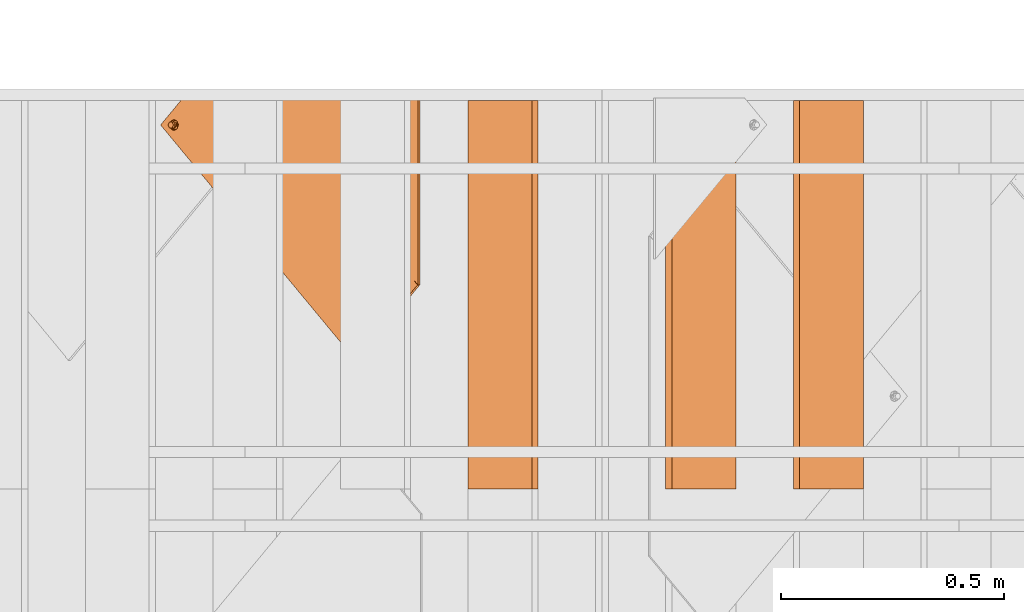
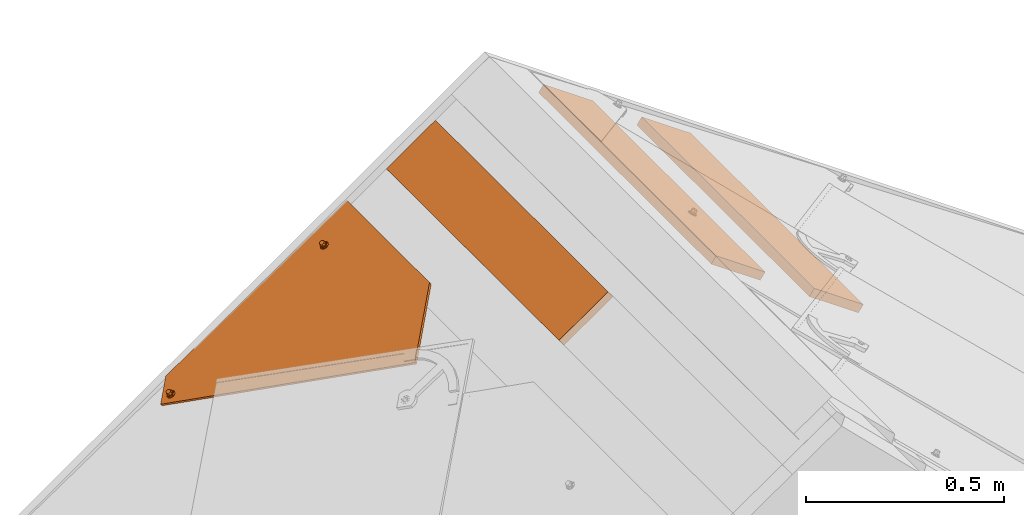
# One storey, part 122 of 151: 4 proxies, 1 element without a shape of its own.
"""IFC2X3 building model written with IfcOpenShell, lengths in millimetres."""

from ifc_helpers import new_model, entity, si_unit, converted_unit, derived_unit, direction, frame, frame_2d, origin, place, context, subcontext, project, spatial, rectangle, extrude, faceted_brep, source, transform, mapped, material, material_list, type_object, type_shapes, element, aggregate, save


model = new_model("IFC2X3")

# Units and contexts
model_context = context("Model", 3, precision=0.01, world=origin(), true_north=direction((6.12303176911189e-17, 1.0)))
body_context = subcontext(model_context, "Body", "Model", "MODEL_VIEW")
ifc_project = project(units=[si_unit("LENGTHUNIT", "METRE", prefix="MILLI"), si_unit("AREAUNIT", "SQUARE_METRE"), si_unit("VOLUMEUNIT", "CUBIC_METRE"), converted_unit("PLANEANGLEUNIT", "DEGREE", entity("IfcRatioMeasure", 0.0174532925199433), si_unit("PLANEANGLEUNIT", "RADIAN"), dimensions=[0, 0, 0, 0, 0, 0, 0]), si_unit("MASSUNIT", "GRAM", prefix="KILO"), derived_unit("MASSDENSITYUNIT", [(si_unit("MASSUNIT", "GRAM", prefix="KILO"), 1), (si_unit("LENGTHUNIT", "METRE"), -3)]), si_unit("TIMEUNIT", "SECOND"), si_unit("FREQUENCYUNIT", "HERTZ"), si_unit("THERMODYNAMICTEMPERATUREUNIT", "DEGREE_CELSIUS"), derived_unit("THERMALTRANSMITTANCEUNIT", [(si_unit("MASSUNIT", "GRAM", prefix="KILO"), 1), (si_unit("THERMODYNAMICTEMPERATUREUNIT", "KELVIN"), -1), (si_unit("TIMEUNIT", "SECOND"), -3)]), derived_unit("VOLUMETRICFLOWRATEUNIT", [(si_unit("LENGTHUNIT", "METRE"), 3), (si_unit("TIMEUNIT", "SECOND"), -1)]), si_unit("ELECTRICCURRENTUNIT", "AMPERE"), si_unit("ELECTRICVOLTAGEUNIT", "VOLT"), si_unit("POWERUNIT", "WATT"), si_unit("FORCEUNIT", "NEWTON", prefix="KILO"), si_unit("ILLUMINANCEUNIT", "LUX"), si_unit("LUMINOUSFLUXUNIT", "LUMEN"), si_unit("LUMINOUSINTENSITYUNIT", "CANDELA"), derived_unit("USERDEFINED", [(si_unit("MASSUNIT", "GRAM", prefix="KILO"), -1), (si_unit("LENGTHUNIT", "METRE"), -2), (si_unit("TIMEUNIT", "SECOND"), 3), (si_unit("LUMINOUSFLUXUNIT", "LUMEN"), 1)]), derived_unit("LINEARVELOCITYUNIT", [(si_unit("LENGTHUNIT", "METRE"), 1), (si_unit("TIMEUNIT", "SECOND"), -1)]), si_unit("PRESSUREUNIT", "PASCAL"), derived_unit("USERDEFINED", [(si_unit("LENGTHUNIT", "METRE"), -2), (si_unit("MASSUNIT", "GRAM", prefix="KILO"), 1), (si_unit("TIMEUNIT", "SECOND"), -2)])], contexts=[model_context])

# Site, building, storey
site_placement = place(None, origin())
site = spatial("IfcSite", under=ifc_project, at=site_placement, Name="Default", CompositionType="ELEMENT")
building_placement = place(site_placement, origin())
building = spatial("IfcBuilding", under=site, at=building_placement, CompositionType="ELEMENT")
storey_placement = place(building_placement, origin())
storey = spatial("IfcBuildingStorey", under=building, at=storey_placement, Name="Level 1", CompositionType="ELEMENT", Elevation=0.0)

# Assembly, proxies
assembly_placement = place(storey_placement, origin())
assembly = element("IfcElementAssembly", 1, at=assembly_placement, inside=storey, Name="Structural Framing Assembly:Roof Construction Assembly", ObjectType="Structural Framing Assembly:Roof Construction Assembly", AssemblyPlace="NOTDEFINED", PredefinedType="USERDEFINED")
ifc_material_1 = material(Name="Wood - Generic - Wood For Showcase")
building_element_proxy_type_1 = type_object("IfcBuildingElementProxyType", Name="Structural Framing 15", PredefinedType="NOTDEFINED", material=ifc_material_1)
shared_shape_1 = source(origin(), body_context, "Body", "SweptSolid", [
    extrude(rectangle(XDim=24.9999999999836, YDim=174.344679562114, at=frame_2d((2.98427949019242e-13, -4.2632564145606e-14), x_axis=(1.0, 0.0))), frame((1285.3560130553, 3055.55080214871, 2760.23940055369), z_axis=(0.0, 1.0, 0.0), x_axis=(0.573576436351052, 0.0, 0.819152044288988)), (0.0, 0.0, 1.0), 870.000000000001),
])
type_shapes(building_element_proxy_type_1, [shared_shape_1])
proxy_1_placement = place(assembly_placement, frame((200.302671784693, 0.0, -100.0)))
proxy_1 = element("IfcBuildingElementProxy", 2, at=proxy_1_placement, type_object=building_element_proxy_type_1, material=ifc_material_1, Name="Structural Framing 164:Structural Framing 15", ObjectType="Structural Framing 164:Structural Framing 15", context=body_context, shape_type="MappedRepresentation", body=[
    mapped(shared_shape_1, transform((0.0, 0.0, 0.0), scale=1.0)),
])
building_element_proxy_type_2 = type_object("IfcBuildingElementProxyType", Name="Structural Framing 15", PredefinedType="NOTDEFINED", material=ifc_material_1)
shared_shape_2 = source(origin(), body_context, "Body", "SweptSolid", [
    extrude(rectangle(XDim=24.9999999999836, YDim=174.344679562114, at=frame_2d((2.98427949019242e-13, -4.2632564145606e-14), x_axis=(1.0, 0.0))), frame((1285.3560130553, 3055.55080214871, 2760.23940055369), z_axis=(0.0, 1.0, 0.0), x_axis=(0.573576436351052, 0.0, 0.819152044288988)), (0.0, 0.0, 1.0), 870.000000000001),
])
type_shapes(building_element_proxy_type_2, [shared_shape_2])
proxy_2_placement = place(assembly_placement, frame((485.932273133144, 0.0, -300.0)))
proxy_2 = element("IfcBuildingElementProxy", 3, at=proxy_2_placement, type_object=building_element_proxy_type_2, material=ifc_material_1, Name="Structural Framing 174:Structural Framing 15", ObjectType="Structural Framing 174:Structural Framing 15", context=body_context, shape_type="MappedRepresentation", body=[
    mapped(shared_shape_2, transform((0.0, 0.0, 0.0), scale=1.0)),
])
building_element_proxy_type_3 = type_object("IfcBuildingElementProxyType", Name="Structural Framing 15", PredefinedType="NOTDEFINED", material=ifc_material_1)
shared_shape_3 = source(origin(), body_context, "Body", "SweptSolid", [
    extrude(rectangle(XDim=24.9999999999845, YDim=174.344679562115, at=frame_2d((-1.77635683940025e-13, -4.54747350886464e-13), x_axis=(0.0, 1.0))), frame((1128.20180147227, 3055.55080214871, 2760.23940055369), z_axis=(0.0, 1.0, 0.0), x_axis=(-0.819152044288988, 0.0, -0.573576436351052)), (0.0, 0.0, 1.0), 870.000000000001),
])
type_shapes(building_element_proxy_type_3, [shared_shape_3])
proxy_3_placement = place(assembly_placement, frame((-85.3269295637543, 0.0, -100.0)))
proxy_3 = element("IfcBuildingElementProxy", 4, at=proxy_3_placement, type_object=building_element_proxy_type_3, material=ifc_material_1, Name="Structural Framing 24:Structural Framing 15", ObjectType="Structural Framing 24:Structural Framing 15", context=body_context, shape_type="MappedRepresentation", body=[
    mapped(shared_shape_3, transform((0.0, 0.0, 0.0), scale=1.0)),
])
aggregate(assembly, [proxy_1, proxy_2, proxy_3])

# Proxy
ifc_material_2 = material(Name="Rubber - Sunstyle - Black")
ifc_material_3 = material(Name="Glass - Sunstyle - Tainted Black")
ifc_material_list_1 = material_list([ifc_material_2, ifc_material_3])
ifc_material_list_2 = material_list([ifc_material_2, ifc_material_3])
building_element_proxy_type_4 = type_object("IfcBuildingElementProxyType", Name="Corner Top Big Left - Black", PredefinedType="NOTDEFINED", material=ifc_material_list_2)
shared_shape_4 = source(origin(), body_context, "Body", "Brep", [
    faceted_brep([(0.0, -33.9825851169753, -4.47296585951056), (-5.7742028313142, -37.3158552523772, -4.41714187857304), (-5.77420283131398, -36.9475461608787, 17.5747274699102), (0.0, -33.6142760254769, 17.5189034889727), (-5.77420283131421, -43.9823955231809, -4.30549391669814), (-5.77420283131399, -43.6140864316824, 17.6863754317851), (0.0, -47.3156656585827, -4.24966993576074), (0.0, -46.9473565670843, 17.7421994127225), (5.77420283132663, -43.9823955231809, -4.30549391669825), (5.77420283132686, -43.6140864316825, 17.686375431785), (5.77420283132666, -37.3158552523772, -4.41714187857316), (5.77420283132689, -36.9475461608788, 17.5747274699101), (-8.60370416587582, -48.8833141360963, 17.774621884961), (0.0, -52.4465854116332, 17.8342978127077), (-12.1674751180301, -40.2808162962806, 17.6305514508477), (-8.60370416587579, -31.6783184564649, 17.4864810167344), (0.0, -28.115047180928, 17.4268050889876), (8.60370416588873, -31.6783184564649, 17.4864810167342), (12.167475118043, -40.2808162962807, 17.6305514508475), (8.60370416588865, -48.8833141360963, 17.7746218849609), (-11.3242446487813, -37.9857391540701, 19.9433933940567), (-9.75647455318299, -40.2098014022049, 21.8708760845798), (0.0, -32.8967261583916, 22.5035764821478), (0.0, -31.6562285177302, 21.9232298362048), (0.0, -29.4986776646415, 20.9138547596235), (0.0, -51.8905414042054, 19.1093557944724), (0.0, -50.9469648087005, 21.273060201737), (0.0, -47.4975891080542, 22.748104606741), (0.0, -28.6280832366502, 18.719767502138), (-6.32324569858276, -43.8473733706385, 22.6869725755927), (-6.32324569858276, -36.5469418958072, 22.5647085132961), (11.3242446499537, -42.4971593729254, 20.0189484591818), (9.84888015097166, -41.2842078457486, 21.7920079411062), (6.32324569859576, -36.5469418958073, 22.564708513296), (6.32324569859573, -43.8473733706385, 22.6869725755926), (-6.32324569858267, -43.7133449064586, 30.6898607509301), (0.0, -47.3635606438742, 30.7509927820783), (0.0, -40.063129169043, 30.6287287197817), (-6.32324569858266, -36.4129134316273, 30.5675966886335), (6.32324569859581, -43.7133449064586, 30.68986075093), (6.32324569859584, -36.4129134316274, 30.5675966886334), (0.0, -32.7626976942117, 30.5064646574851), (0.0, -40.649125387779, -4.36131789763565)], [[[0, 1, 2, 3]], [[1, 4, 5, 2]], [[4, 6, 7, 5]], [[6, 8, 9, 7]], [[8, 10, 11, 9]], [[10, 0, 3, 11]], [[12, 7, 13]], [[7, 12, 5]], [[14, 5, 12]], [[5, 14, 2]], [[15, 2, 14]], [[3, 2, 15]], [[15, 16, 3]], [[16, 17, 3]], [[11, 3, 17]], [[11, 17, 18]], [[9, 11, 18]], [[18, 19, 9]], [[7, 9, 19]], [[19, 13, 7]], [[20, 14, 12]], [[21, 22, 23, 24]], [[24, 20, 21]], [[25, 20, 12]], [[26, 27, 21]], [[15, 14, 20]], [[12, 13, 25]], [[20, 28, 15]], [[28, 20, 24]], [[21, 27, 29]], [[21, 29, 30]], [[26, 21, 20]], [[20, 25, 26]], [[15, 28, 16]], [[21, 30, 22]], [[31, 18, 17]], [[28, 31, 17]], [[32, 27, 26]], [[26, 31, 32]], [[26, 25, 31]], [[25, 19, 31]], [[17, 16, 28]], [[31, 19, 18]], [[24, 31, 28]], [[33, 34, 32]], [[23, 22, 33]], [[24, 32, 31]], [[27, 32, 34]], [[32, 23, 33]], [[19, 25, 13]], [[32, 24, 23]], [[35, 36, 37]], [[37, 38, 35]], [[36, 39, 37]], [[40, 37, 39]], [[37, 40, 41]], [[37, 41, 38]], [[42, 6, 4]], [[4, 1, 42]], [[1, 0, 42]], [[42, 8, 6]], [[0, 10, 42]], [[8, 42, 10]], [[22, 30, 38, 41]], [[30, 29, 35, 38]], [[29, 27, 36, 35]], [[27, 34, 39, 36]], [[34, 33, 40, 39]], [[33, 22, 41, 40]]]),
    faceted_brep([(0.0, -572.517457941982, 4.0063690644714), (-5.77420283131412, -575.850728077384, 4.06219304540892), (-5.77420283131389, -575.482418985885, 26.0540623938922), (0.0, -572.149148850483, 25.9982384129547), (-5.77420283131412, -582.517268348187, 4.17384100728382), (-5.7742028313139, -582.148959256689, 26.1657103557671), (0.0, -585.850538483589, 4.22966498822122), (0.0, -585.482229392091, 26.2215343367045), (5.77420283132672, -582.517268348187, 4.17384100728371), (5.77420283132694, -582.148959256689, 26.165710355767), (5.77420283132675, -575.850728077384, 4.0621930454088), (5.77420283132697, -575.482418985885, 26.0540623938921), (-8.60370416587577, -587.418186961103, 26.253956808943), (0.0, -590.98145823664, 26.3136327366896), (-12.1674751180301, -578.815689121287, 26.1098863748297), (-8.60370416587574, -570.213191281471, 25.9658159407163), (0.0, -566.649920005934, 25.9061400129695), (8.60370416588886, -570.213191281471, 25.9658159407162), (12.1674751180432, -578.815689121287, 26.1098863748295), (8.60370416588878, -587.418186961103, 26.2539568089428), (-11.3242446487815, -576.520611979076, 28.4227283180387), (-9.75647455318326, -578.744674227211, 30.3502110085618), (0.0, -571.431598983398, 30.9829114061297), (0.0, -570.191101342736, 30.4025647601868), (0.0, -568.033550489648, 29.3931896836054), (0.0, -590.425414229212, 27.5886907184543), (0.0, -589.481837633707, 29.752395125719), (0.0, -586.032461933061, 31.227439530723), (0.0, -567.162956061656, 27.1991024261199), (-6.32324569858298, -582.382246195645, 31.1663074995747), (-6.32324569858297, -575.081814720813, 31.0440434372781), (11.3242446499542, -581.032032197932, 28.4982833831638), (9.8488801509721, -579.819080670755, 30.2713428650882), (6.32324569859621, -575.081814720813, 31.044043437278), (6.32324569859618, -582.382246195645, 31.1663074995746), (-6.32324569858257, -582.248217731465, 39.1691956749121), (0.0, -585.898433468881, 39.2303277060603), (0.0, -578.598001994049, 39.1080636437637), (-6.32324569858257, -574.947786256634, 39.0469316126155), (6.32324569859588, -582.248217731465, 39.1691956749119), (6.32324569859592, -574.947786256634, 39.0469316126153), (0.0, -571.297570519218, 38.9857995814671), (0.0, -579.183998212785, 4.1180170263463)], [[[0, 1, 2, 3]], [[1, 4, 5, 2]], [[4, 6, 7, 5]], [[6, 8, 9, 7]], [[8, 10, 11, 9]], [[10, 0, 3, 11]], [[12, 7, 13]], [[7, 12, 5]], [[14, 5, 12]], [[5, 14, 2]], [[15, 2, 14]], [[3, 2, 15]], [[15, 16, 3]], [[16, 17, 3]], [[11, 3, 17]], [[11, 17, 18]], [[9, 11, 18]], [[18, 19, 9]], [[7, 9, 19]], [[19, 13, 7]], [[20, 14, 12]], [[21, 22, 23, 24]], [[24, 20, 21]], [[25, 20, 12]], [[26, 27, 21]], [[15, 14, 20]], [[12, 13, 25]], [[20, 28, 15]], [[28, 20, 24]], [[21, 27, 29]], [[21, 29, 30]], [[26, 21, 20]], [[20, 25, 26]], [[15, 28, 16]], [[21, 30, 22]], [[31, 18, 17]], [[28, 31, 17]], [[32, 27, 26]], [[26, 31, 32]], [[26, 25, 31]], [[25, 19, 31]], [[17, 16, 28]], [[31, 19, 18]], [[24, 31, 28]], [[33, 34, 32]], [[23, 22, 33]], [[24, 32, 31]], [[27, 32, 34]], [[32, 23, 33]], [[19, 25, 13]], [[32, 24, 23]], [[35, 36, 37]], [[37, 38, 35]], [[36, 39, 37]], [[40, 37, 39]], [[37, 40, 41]], [[37, 41, 38]], [[42, 6, 4]], [[4, 1, 42]], [[1, 0, 42]], [[42, 8, 6]], [[0, 10, 42]], [[8, 42, 10]], [[22, 30, 38, 41]], [[30, 29, 35, 38]], [[29, 27, 36, 35]], [[27, 34, 39, 36]], [[34, 33, 40, 39]], [[33, 22, 41, 40]]]),
    faceted_brep([(518.469870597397, -96.888376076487, 17.926263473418), (526.954557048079, -88.4036896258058, 17.7841660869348), (526.954557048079, -88.3785718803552, 19.2839557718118), (518.469870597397, -96.8632583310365, 19.426053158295), (349.749078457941, 71.7851066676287, 15.1014023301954), (358.233764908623, 80.2697931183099, 14.9593049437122), (358.233764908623, 80.2949108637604, 16.4590946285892), (349.749078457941, 71.8102244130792, 16.6011920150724)], [[[0, 1, 2, 3]], [[1, 0, 4, 5]], [[2, 1, 5, 6]], [[3, 2, 6, 7]], [[0, 3, 7, 4]], [[4, 7, 6, 5]]]),
    faceted_brep([(358.233764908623, 80.2697931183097, 14.9593049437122), (6.92820323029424, -35.9783347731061, 16.9061718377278), (7.72740661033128, -37.9075118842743, 16.9384807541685), (5.6568542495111, -34.321712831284, 16.8784275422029), (8.0, -39.9777739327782, 16.9731524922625), (7.72740661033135, -42.0480359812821, 17.0078242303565), (6.92820323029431, -43.9772130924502, 17.0401331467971), (526.954557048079, -88.4036896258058, 17.7841660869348), (-60.1037538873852, 80.269793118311, 14.9593049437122), (4.0, -33.0505421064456, 16.8571385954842), (2.07055236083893, -32.2514507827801, 16.8437558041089), (0.0, -31.9788956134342, 16.8391911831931), (-2.07055236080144, -32.2514507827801, 16.8437558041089), (-4.0, -33.0505421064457, 16.8571385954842), (-5.6568542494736, -34.321712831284, 16.8784275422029), (-6.92820323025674, -35.9783347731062, 16.9061718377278), (-7.72740661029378, -37.9075118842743, 16.9384807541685), (-8.0, -39.9777739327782, 16.9731524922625), (-7.72740661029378, -42.0480359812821, 17.0078242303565), (-60.1037538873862, -555.122942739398, 25.6005522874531), (-6.92820323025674, -43.9772130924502, 17.0401331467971), (-5.6568542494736, -45.6338350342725, 17.067877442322), (-4.0, -46.9050057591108, 17.0891663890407), (-2.07055236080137, -47.7040970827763, 17.102549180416), (0.0, -47.9766522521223, 17.1071138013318), (2.07055236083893, -47.7040970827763, 17.102549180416), (2.00505600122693, -570.990105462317, 25.8662877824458), (-0.0654963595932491, -570.717550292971, 25.8617231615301), (-2.13604872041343, -570.990105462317, 25.8662877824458), (-4.06549635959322, -571.789196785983, 25.8796705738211), (-5.7223506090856, -573.060367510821, 25.9009595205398), (-6.99369958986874, -574.716989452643, 25.9287038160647), (-7.79290296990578, -576.646166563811, 25.9610127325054), (-8.06549635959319, -578.716428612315, 25.9956844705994), (-7.79290296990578, -580.786690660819, 26.0303562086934), (-6.99369958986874, -582.715867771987, 26.062665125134), (0.00032251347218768, -615.210165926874, 26.6068637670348), (7.66191025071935, -580.786690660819, 26.0303562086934), (6.86270687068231, -582.715867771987, 26.062665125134), (5.59135788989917, -584.37248971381, 26.0904094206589), (3.93450364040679, -585.643660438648, 26.1116983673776), (2.005056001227, -586.442751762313, 26.1250811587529), (-0.0654963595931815, -586.715306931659, 26.1296457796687), (-2.13604872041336, -586.442751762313, 26.1250811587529), (-4.06549635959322, -585.643660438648, 26.1116983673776), (-5.7223506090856, -584.37248971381, 26.0904094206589), (3.93450364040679, -571.789196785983, 25.8796705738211), (4.0, -46.9050057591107, 17.0891663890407), (5.59135788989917, -573.060367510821, 25.9009595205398), (5.65685424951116, -45.6338350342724, 17.067877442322), (6.86270687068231, -574.716989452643, 25.9287038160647), (7.66191025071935, -576.646166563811, 25.9610127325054), (7.93450364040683, -578.716428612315, 25.9956844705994), (-60.1037538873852, 80.1442043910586, 7.46035651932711), (-6.92820323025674, -36.1039235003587, 9.40722341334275), (-7.72740661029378, -38.0331006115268, 9.4395323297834), (-5.6568542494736, -34.4473015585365, 9.37947911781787), (-8.0, -40.1033626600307, 9.4742040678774), (-7.72740661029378, -42.1736247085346, 9.5088758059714), (-60.1037538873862, -555.248531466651, 18.101603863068), (-4.0, -33.1761308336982, 9.35819017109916), (-2.07055236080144, -32.3770395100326, 9.34480737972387), (0.0, -32.1044843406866, 9.34024275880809), (2.07055236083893, -32.3770395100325, 9.34480737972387), (4.0, -33.1761308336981, 9.35819017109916), (5.6568542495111, -34.4473015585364, 9.37947911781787), (358.233764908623, 80.1442043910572, 7.46035651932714), (6.92820323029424, -36.1039235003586, 9.40722341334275), (7.72740661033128, -38.0331006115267, 9.4395323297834), (8.0, -40.1033626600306, 9.4742040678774), (7.72740661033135, -42.1736247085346, 9.5088758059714), (6.92820323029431, -44.1028018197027, 9.54118472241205), (526.954557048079, -88.5292783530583, 10.2852176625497), (5.65685424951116, -45.7594237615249, 9.56892901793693), (5.59135788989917, -573.185956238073, 18.4020110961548), (6.86270687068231, -574.842578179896, 18.4297553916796), (7.66191025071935, -576.771755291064, 18.4620643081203), (7.93450364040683, -578.842017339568, 18.4967360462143), (7.66191025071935, -580.912279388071, 18.5314077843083), (0.00032251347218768, -615.335754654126, 19.1079153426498), (-6.99369958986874, -582.84145649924, 18.563716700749), (-5.7223506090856, -584.498078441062, 18.5914609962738), (-4.06549635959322, -585.7692491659, 18.6127499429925), (-2.13604872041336, -586.568340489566, 18.6261327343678), (-0.0654963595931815, -586.840895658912, 18.6306973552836), (2.005056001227, -586.568340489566, 18.6261327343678), (3.93450364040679, -585.7692491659, 18.6127499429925), (5.59135788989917, -584.498078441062, 18.5914609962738), (6.86270687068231, -582.84145649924, 18.563716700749), (4.0, -47.0305944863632, 9.59021796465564), (3.93450364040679, -571.914785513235, 18.3807221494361), (2.07055236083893, -47.8296858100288, 9.60360075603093), (2.00505600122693, -571.115694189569, 18.3673393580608), (-0.0654963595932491, -570.843139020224, 18.362774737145), (-2.13604872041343, -571.11569418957, 18.3673393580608), (-4.06549635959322, -571.914785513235, 18.3807221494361), (-5.7223506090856, -573.185956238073, 18.4020110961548), (-6.99369958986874, -574.842578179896, 18.4297553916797), (-7.79290296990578, -576.771755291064, 18.4620643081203), (-8.06549635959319, -578.842017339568, 18.4967360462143), (-7.79290296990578, -580.912279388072, 18.5314077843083), (0.0, -48.1022409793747, 9.60816537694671), (-6.92820323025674, -44.1028018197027, 9.54118472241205), (-5.6568542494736, -45.7594237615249, 9.56892901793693), (-4.0, -47.0305944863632, 9.59021796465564), (-2.07055236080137, -47.8296858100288, 9.60360075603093)], [[[0, 1, 2]], [[1, 0, 3]], [[0, 2, 4]], [[4, 5, 0]], [[5, 6, 0]], [[7, 0, 6]], [[8, 3, 0]], [[8, 9, 3]], [[8, 10, 9]], [[11, 10, 8]], [[12, 11, 8]], [[13, 12, 8]], [[8, 14, 13]], [[14, 8, 15]], [[15, 8, 16]], [[17, 16, 8]], [[18, 17, 8]], [[18, 8, 19]], [[19, 20, 18]], [[21, 20, 19]], [[22, 21, 19]], [[23, 22, 19]], [[19, 24, 23]], [[19, 25, 24]], [[26, 25, 19]], [[26, 19, 27]], [[28, 27, 19]], [[29, 28, 19]], [[29, 19, 30]], [[19, 31, 30]], [[31, 19, 32]], [[32, 19, 33]], [[34, 33, 19]], [[35, 34, 19]], [[35, 19, 36]], [[7, 37, 36]], [[36, 37, 38]], [[39, 36, 38]], [[39, 40, 36]], [[41, 36, 40]], [[42, 36, 41]], [[42, 43, 36]], [[43, 44, 36]], [[45, 35, 36]], [[45, 36, 44]], [[25, 26, 46]], [[46, 47, 25]], [[48, 47, 46]], [[48, 49, 47]], [[50, 7, 48]], [[48, 7, 49]], [[7, 50, 51]], [[7, 51, 52]], [[52, 37, 7]], [[7, 6, 49]], [[53, 54, 55]], [[54, 53, 56]], [[53, 55, 57]], [[58, 53, 57]], [[53, 58, 59]], [[60, 56, 53]], [[61, 60, 53]], [[53, 62, 61]], [[62, 53, 63]], [[63, 53, 64]], [[53, 65, 64]], [[65, 53, 66]], [[66, 67, 65]], [[67, 66, 68]], [[68, 66, 69]], [[70, 69, 66]], [[71, 70, 66]], [[71, 66, 72]], [[72, 73, 71]], [[73, 72, 74]], [[74, 72, 75]], [[75, 72, 76]], [[77, 76, 72]], [[78, 77, 72]], [[78, 72, 79]], [[59, 80, 79]], [[79, 80, 81]], [[79, 81, 82]], [[82, 83, 79]], [[83, 84, 79]], [[79, 84, 85]], [[79, 85, 86]], [[86, 87, 79]], [[79, 87, 88]], [[79, 88, 78]], [[73, 74, 89]], [[90, 89, 74]], [[90, 91, 89]], [[91, 90, 92]], [[93, 59, 92]], [[92, 59, 91]], [[93, 94, 59]], [[94, 95, 59]], [[95, 96, 59]], [[97, 59, 96]], [[97, 98, 59]], [[98, 99, 59]], [[99, 100, 59]], [[100, 80, 59]], [[59, 101, 91]], [[102, 59, 58]], [[102, 103, 59]], [[103, 104, 59]], [[104, 105, 59]], [[59, 105, 101]], [[36, 19, 59, 79]], [[7, 36, 79, 72]], [[0, 7, 72, 66]], [[33, 99, 98, 32]], [[32, 98, 97, 31]], [[29, 30, 96, 95]], [[96, 30, 31, 97]], [[28, 29, 95, 94]], [[28, 94, 93, 27]], [[27, 93, 92, 26]], [[26, 92, 90, 46]], [[50, 48, 74, 75]], [[74, 48, 46, 90]], [[51, 50, 75, 76]], [[51, 76, 77, 52]], [[52, 77, 78, 37]], [[37, 78, 88, 38]], [[40, 39, 87, 86]], [[87, 39, 38, 88]], [[41, 40, 86, 85]], [[41, 85, 84, 42]], [[42, 84, 83, 43]], [[43, 83, 82, 44]], [[35, 45, 81, 80]], [[81, 45, 44, 82]], [[34, 35, 80, 100]], [[34, 100, 99, 33]], [[17, 57, 55, 16]], [[16, 55, 54, 15]], [[13, 14, 56, 60]], [[56, 14, 15, 54]], [[12, 13, 60, 61]], [[12, 61, 62, 11]], [[11, 62, 63, 10]], [[10, 63, 64, 9]], [[1, 3, 65, 67]], [[65, 3, 9, 64]], [[2, 1, 67, 68]], [[2, 68, 69, 4]], [[4, 69, 70, 5]], [[5, 70, 71, 6]], [[47, 49, 73, 89]], [[73, 49, 6, 71]], [[25, 47, 89, 91]], [[25, 91, 101, 24]], [[24, 101, 105, 23]], [[23, 105, 104, 22]], [[20, 21, 103, 102]], [[103, 21, 22, 104]], [[18, 20, 102, 58]], [[18, 58, 57, 17]], [[19, 8, 53, 59]], [[8, 0, 66, 53]]]),
])
type_shapes(building_element_proxy_type_4, [shared_shape_4])
proxy_4_placement = place(storey_placement, frame((794.943359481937, 3870.52810941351, 2501.89556895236), z_axis=(-0.57357643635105, 0.0, 0.819152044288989), x_axis=(0.0, -1.0, 0.0)))
element("IfcBuildingElementProxy", 5, at=proxy_4_placement, inside=storey, type_object=building_element_proxy_type_4, material=ifc_material_list_1, Name="Roofing_Panels_SunStyle_Tile_Corner-Top-Big-Left:Corner Top Big Left - Black", ObjectType="Roofing_Panels_SunStyle_Tile_Corner-Top-Big-Left:Corner Top Big Left - Black", context=body_context, shape_type="MappedRepresentation", body=[
    mapped(shared_shape_4, transform((0.0, 0.0, 0.0), scale=1.0)),
])

save(model, "model.ifc")
